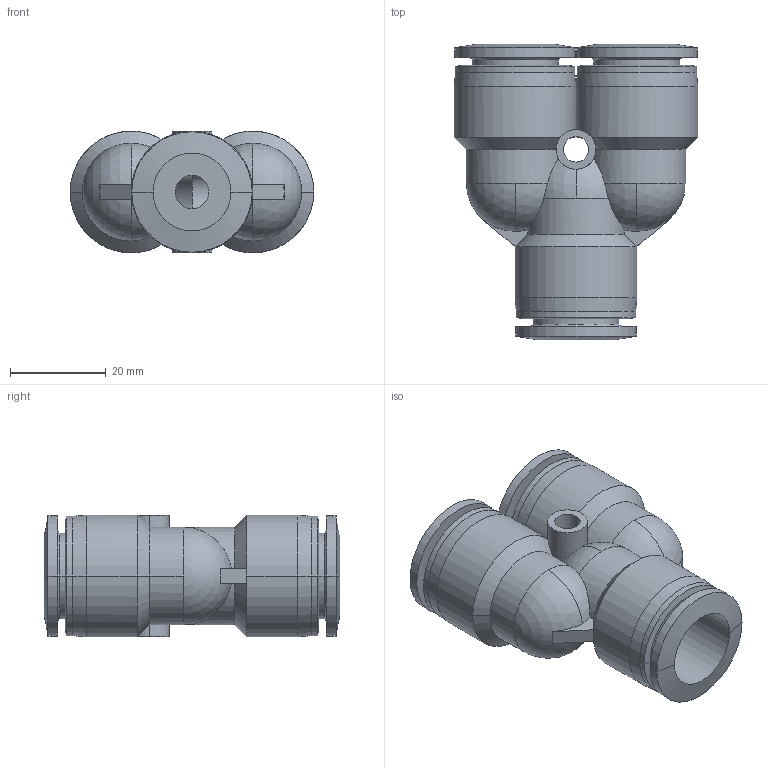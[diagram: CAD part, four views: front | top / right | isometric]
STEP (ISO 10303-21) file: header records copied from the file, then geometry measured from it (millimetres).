
FILE_DESCRIPTION (( 'STEP AP203' ), '1' );
FILE_NAME ('FY16-00.STEP', '2020-05-06T15:28:48', ( '' ), ( '' ), 'SwSTEP 2.0', 'SolidWorks 2019', '' );
FILE_SCHEMA (( 'CONFIG_CONTROL_DESIGN' ));
Length unit declared in the file: millimetre
Products named in the file (1): FY16-00
Bounding box: 51 x 61.9 x 25.5 mm (x, y, z)
Volume: 27593 mm3; surface area: 15041.2 mm2
Topology: 1 solids, 1 shells, 115 faces, 263 edges, 153 vertices
Faces by surface type: cylinder 42, cone 30, plane 29, sphere 10, bspline 4
Entity records: 4022 total; most frequent: CARTESIAN_POINT 1359, DIRECTION 580, ORIENTED_EDGE 522, EDGE_CURVE 261, AXIS2_PLACEMENT_3D 244, VERTEX_POINT 153, CIRCLE 132, EDGE_LOOP 126
